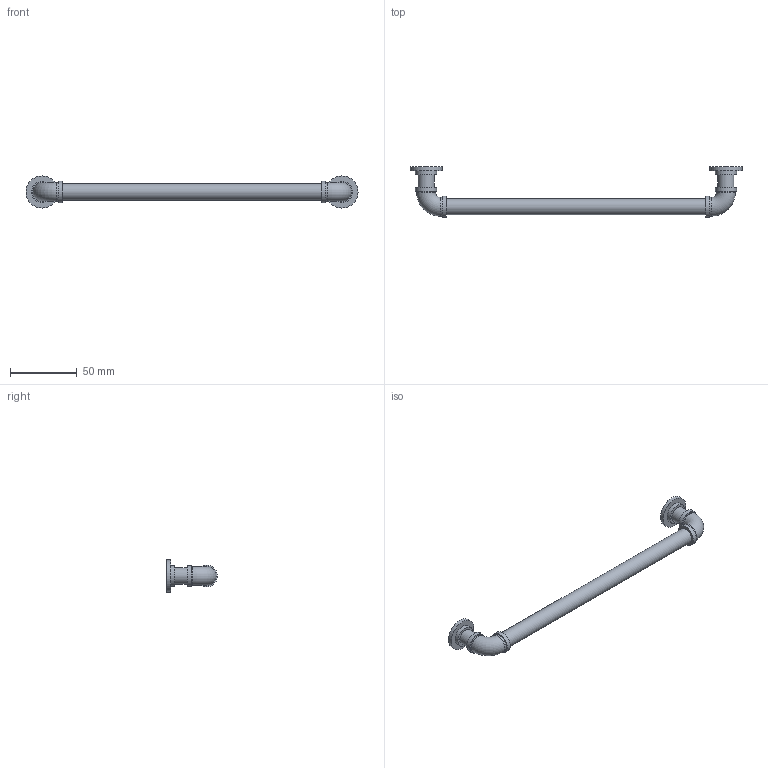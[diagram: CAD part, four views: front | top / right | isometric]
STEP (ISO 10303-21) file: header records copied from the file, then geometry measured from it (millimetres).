
FILE_DESCRIPTION( ( 'STEP AP214' ), '1' );
FILE_NAME( 'D:/Yug/2020/ProDecor_2020/QC/9266565.stp', '2020-06-01T11:59:32', ( '' ), ( '' ), ' ', 'PARTsolutions', ' ' );
FILE_SCHEMA( ( 'AUTOMOTIVE_DESIGN { 1 0 10303 214 1 1 1 1 }' ) );
Length unit declared in the file: millimetre
Products named in the file (1): _9266565
Bounding box: 248 x 38 x 24 mm (x, y, z)
Volume: 36088.5 mm3; surface area: 13324.1 mm2
Topology: 1 solids, 1 shells, 35 faces, 53 edges, 34 vertices
Faces by surface type: cylinder 17, plane 16, torus 2
Full cylindrical faces by diameter (mm): 3.25 x2, 12 x3, 14 x4, 15.8 x4, 16 x2, 24 x2
Entity records: 990 total; most frequent: DIRECTION 140, CARTESIAN_POINT 104, AXIS2_PLACEMENT_3D 70, EDGE_LOOP 68, ORIENTED_EDGE 68, FACE_OUTER_BOUND 54, STYLED_ITEM 35, PRESENTATION_STYLE_ASSIGNMENT 35
